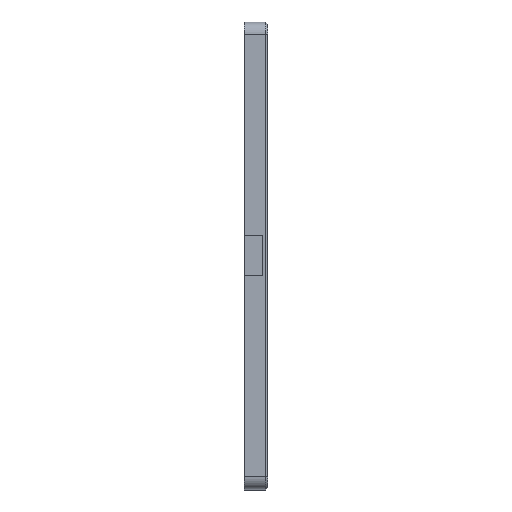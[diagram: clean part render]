
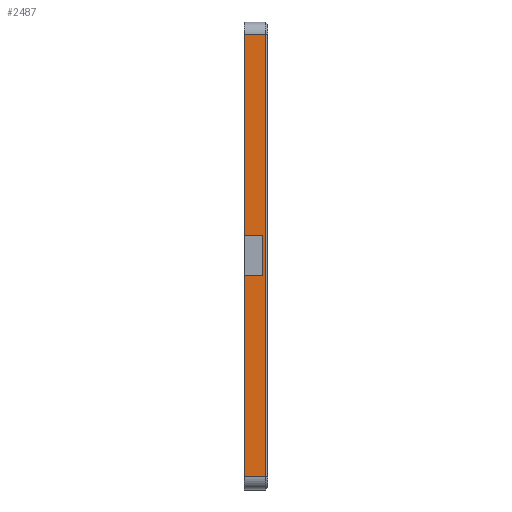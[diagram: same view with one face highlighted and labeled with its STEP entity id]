
A CAD part, top view. The second image highlights one B-rep face of the part: STEP entity #2487.
In plain terms, the highlighted planar face has unit normal (0, 0, 1).
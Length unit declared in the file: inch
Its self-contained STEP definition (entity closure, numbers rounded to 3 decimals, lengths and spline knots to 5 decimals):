
#12 = VECTOR ( 'NONE', #545, 39.37008 ) ;
#157 = CARTESIAN_POINT ( 'NONE',  ( 0.3, 4.09723, 0.21479 ) ) ;
#158 = EDGE_LOOP ( 'NONE', ( #275, #1751, #2411, #1249, #1220, #2229, #448, #855 ) ) ;
#186 = VERTEX_POINT ( 'NONE', #1140 ) ;
#188 = VERTEX_POINT ( 'NONE', #951 ) ;
#239 = VERTEX_POINT ( 'NONE', #761 ) ;
#275 = ORIENTED_EDGE ( 'NONE', *, *, #2239, .F. ) ;
#337 = EDGE_CURVE ( 'NONE', #683, #188, #530, .T. ) ;
#399 = EDGE_CURVE ( 'NONE', #188, #1703, #863, .T. ) ;
#448 = ORIENTED_EDGE ( 'NONE', *, *, #1481, .F. ) ;
#530 = LINE ( 'NONE', #157, #1260 ) ;
#544 = DIRECTION ( 'NONE',  ( 0., -1., 0. ) ) ;
#545 = DIRECTION ( 'NONE',  ( 0., 1., 0. ) ) ;
#557 = CARTESIAN_POINT ( 'NONE',  ( 0., 4.09723, 0.21479 ) ) ;
#602 = VECTOR ( 'NONE', #681, 39.37008 ) ;
#681 = DIRECTION ( 'NONE',  ( 1., 0., 0. ) ) ;
#683 = VERTEX_POINT ( 'NONE', #1856 ) ;
#698 = VERTEX_POINT ( 'NONE', #1507 ) ;
#729 = CARTESIAN_POINT ( 'NONE',  ( 0.33, 4.09723, 0.21479 ) ) ;
#749 = CARTESIAN_POINT ( 'NONE',  ( 0.256, 1.29798, 0.21479 ) ) ;
#761 = CARTESIAN_POINT ( 'NONE',  ( 0.256, 1.29798, 0.21479 ) ) ;
#797 = EDGE_CURVE ( 'NONE', #1413, #698, #1052, .T. ) ;
#833 = VECTOR ( 'NONE', #544, 39.37008 ) ;
#855 = ORIENTED_EDGE ( 'NONE', *, *, #797, .T. ) ;
#863 = LINE ( 'NONE', #1186, #1550 ) ;
#924 = FACE_OUTER_BOUND ( 'NONE', #158, .T. ) ;
#951 = CARTESIAN_POINT ( 'NONE',  ( 0.3, 4.09723, 0.21479 ) ) ;
#1052 = LINE ( 'NONE', #557, #833 ) ;
#1054 = CARTESIAN_POINT ( 'NONE',  ( 0., 4.09723, 0.21479 ) ) ;
#1068 = LINE ( 'NONE', #1054, #1591 ) ;
#1083 = CARTESIAN_POINT ( 'NONE',  ( 0., 0.74248, 0.21479 ) ) ;
#1140 = CARTESIAN_POINT ( 'NONE',  ( 0.256, 0.74248, 0.21479 ) ) ;
#1186 = CARTESIAN_POINT ( 'NONE',  ( 0.33, 4.09723, 0.21479 ) ) ;
#1191 = LINE ( 'NONE', #1083, #602 ) ;
#1220 = ORIENTED_EDGE ( 'NONE', *, *, #2318, .F. ) ;
#1249 = ORIENTED_EDGE ( 'NONE', *, *, #1960, .T. ) ;
#1260 = VECTOR ( 'NONE', #1517, 39.37008 ) ;
#1280 = VECTOR ( 'NONE', #1500, 39.37008 ) ;
#1321 = CARTESIAN_POINT ( 'NONE',  ( 0., 4.09723, 0.21479 ) ) ;
#1405 = CARTESIAN_POINT ( 'NONE',  ( 0., 0.74248, 0.21479 ) ) ;
#1413 = VERTEX_POINT ( 'NONE', #1405 ) ;
#1463 = LINE ( 'NONE', #2404, #1280 ) ;
#1472 = DIRECTION ( 'NONE',  ( -1., 0., 0. ) ) ;
#1481 = EDGE_CURVE ( 'NONE', #1413, #186, #1191, .T. ) ;
#1500 = DIRECTION ( 'NONE',  ( -1., 0., 0. ) ) ;
#1507 = CARTESIAN_POINT ( 'NONE',  ( 0., -2.05677, 0.21479 ) ) ;
#1517 = DIRECTION ( 'NONE',  ( 0., 1., 0. ) ) ;
#1530 = DIRECTION ( 'NONE',  ( 0., 0., -1. ) ) ;
#1550 = VECTOR ( 'NONE', #1936, 39.37008 ) ;
#1591 = VECTOR ( 'NONE', #1611, 39.37008 ) ;
#1597 = AXIS2_PLACEMENT_3D ( 'NONE', #729, #1530, #1910 ) ;
#1611 = DIRECTION ( 'NONE',  ( 0., -1., 0. ) ) ;
#1700 = VECTOR ( 'NONE', #1472, 39.37008 ) ;
#1703 = VERTEX_POINT ( 'NONE', #1321 ) ;
#1717 = CARTESIAN_POINT ( 'NONE',  ( 0., 1.29798, 0.21479 ) ) ;
#1751 = ORIENTED_EDGE ( 'NONE', *, *, #337, .T. ) ;
#1784 = VERTEX_POINT ( 'NONE', #1717 ) ;
#1856 = CARTESIAN_POINT ( 'NONE',  ( 0.3, -2.05677, 0.21479 ) ) ;
#1858 = CARTESIAN_POINT ( 'NONE',  ( 0.33, -2.05677, 0.21479 ) ) ;
#1910 = DIRECTION ( 'NONE',  ( 0., 1., 0. ) ) ;
#1936 = DIRECTION ( 'NONE',  ( -1., 0., 0. ) ) ;
#1937 = LINE ( 'NONE', #749, #12 ) ;
#1960 = EDGE_CURVE ( 'NONE', #1703, #1784, #1068, .T. ) ;
#2229 = ORIENTED_EDGE ( 'NONE', *, *, #2397, .F. ) ;
#2239 = EDGE_CURVE ( 'NONE', #683, #698, #2260, .T. ) ;
#2256 = PLANE ( 'NONE',  #1597 ) ;
#2260 = LINE ( 'NONE', #1858, #1700 ) ;
#2318 = EDGE_CURVE ( 'NONE', #239, #1784, #1463, .T. ) ;
#2397 = EDGE_CURVE ( 'NONE', #186, #239, #1937, .T. ) ;
#2404 = CARTESIAN_POINT ( 'NONE',  ( 0., 1.29798, 0.21479 ) ) ;
#2411 = ORIENTED_EDGE ( 'NONE', *, *, #399, .T. ) ;
#2487 = ADVANCED_FACE ( 'NONE', ( #924 ), #2256, .F. ) ;
